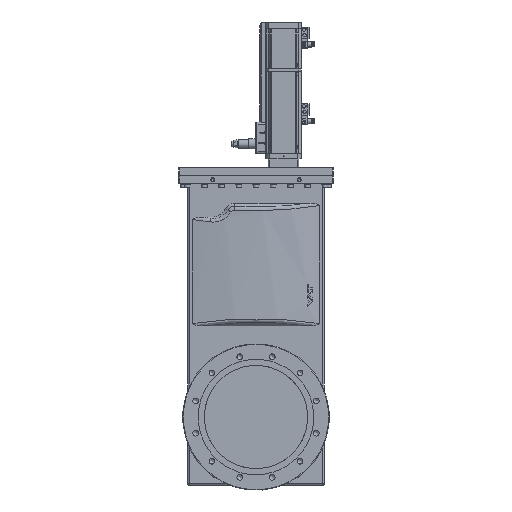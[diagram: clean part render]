
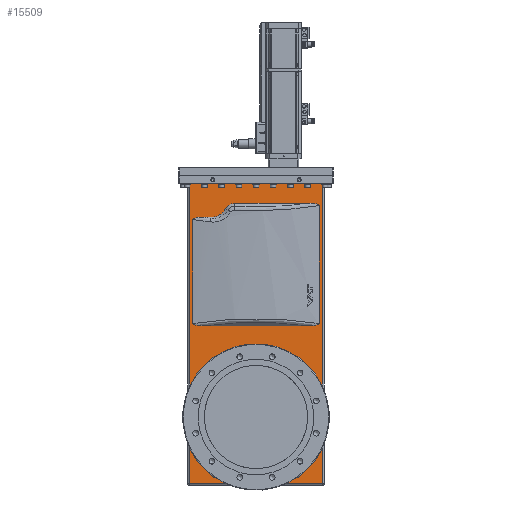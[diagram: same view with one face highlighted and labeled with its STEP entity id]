
A CAD part, front view. The second image highlights one B-rep face of the part: STEP entity #15509.
In plain terms, the highlighted planar face has unit normal (0, -1, 0) as drawn and (0, 0, 1) by its records, which use the part's own axes.
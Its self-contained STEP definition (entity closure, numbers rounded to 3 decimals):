
#15509=ADVANCED_FACE('',(#18729,#18730,#18731),#17597,.F.);
#17597=PLANE('',#48073);
#18729=FACE_BOUND('',#20334,.T.);
#18730=FACE_BOUND('',#20335,.T.);
#18731=FACE_BOUND('',#20336,.T.);
#20334=EDGE_LOOP('',(#29227));
#20335=EDGE_LOOP('',(#29228,#29229,#29230,#29231));
#20336=EDGE_LOOP('',(#29232,#29233,#29234,#29235,#29236,#29237,#29238,#29239,
#29240,#29241,#29242));
#23321=B_SPLINE_CURVE_WITH_KNOTS('',3,(#61765,#61766,#61767,#61768,#61769,
#61770,#61771,#61772,#61773,#61774,#61775,#61776),.UNSPECIFIED.,.F.,.F.,
(4,2,2,2,2,4),(0.,0.5,0.75,0.875,0.938,1.),.UNSPECIFIED.);
#23322=B_SPLINE_CURVE_WITH_KNOTS('',3,(#61777,#61778,#61779,#61780,#61781,
#61782,#61783,#61784,#61785,#61786,#61787,#61788),.UNSPECIFIED.,.F.,.F.,
(4,2,2,2,2,4),(0.,0.063,0.125,0.25,
0.5,1.),.UNSPECIFIED.);
#23323=B_SPLINE_CURVE_WITH_KNOTS('',3,(#61792,#61793,#61794,#61795,#61796,
#61797,#61798,#61799,#61800,#61801,#61802,#61803),.UNSPECIFIED.,.F.,.F.,
(4,2,2,2,2,4),(0.,0.5,0.75,0.875,
0.938,1.),.UNSPECIFIED.);
#23324=B_SPLINE_CURVE_WITH_KNOTS('',3,(#61804,#61805,#61806,#61807,#61808,
#61809,#61810,#61811,#61812,#61813,#61814,#61815),.UNSPECIFIED.,.F.,.F.,
(4,2,2,2,2,4),(0.,0.063,0.125,0.25,0.5,1.),.UNSPECIFIED.);
#24423=LINE('',#61672,#26638);
#24424=LINE('',#61676,#26639);
#24433=LINE('',#61752,#26648);
#24434=LINE('',#61755,#26649);
#24435=LINE('',#61757,#26650);
#24436=LINE('',#61759,#26651);
#24437=LINE('',#61763,#26652);
#24438=LINE('',#61790,#26653);
#24439=LINE('',#61817,#26654);
#26638=VECTOR('',#51739,1.);
#26639=VECTOR('',#51742,1.);
#26648=VECTOR('',#51767,1.);
#26649=VECTOR('',#51768,1.);
#26650=VECTOR('',#51769,1.);
#26651=VECTOR('',#51770,1.);
#26652=VECTOR('',#51773,1.);
#26653=VECTOR('',#51774,1.);
#26654=VECTOR('',#51775,1.);
#29227=ORIENTED_EDGE('',*,*,#41987,.T.);
#29228=ORIENTED_EDGE('',*,*,#41988,.T.);
#29229=ORIENTED_EDGE('',*,*,#41989,.T.);
#29230=ORIENTED_EDGE('',*,*,#41990,.T.);
#29231=ORIENTED_EDGE('',*,*,#41991,.T.);
#29232=ORIENTED_EDGE('',*,*,#41992,.F.);
#29233=ORIENTED_EDGE('',*,*,#41993,.T.);
#29234=ORIENTED_EDGE('',*,*,#41994,.T.);
#29235=ORIENTED_EDGE('',*,*,#41964,.T.);
#29236=ORIENTED_EDGE('',*,*,#41995,.T.);
#29237=ORIENTED_EDGE('',*,*,#41996,.F.);
#29238=ORIENTED_EDGE('',*,*,#41997,.T.);
#29239=ORIENTED_EDGE('',*,*,#41962,.F.);
#29240=ORIENTED_EDGE('',*,*,#41998,.T.);
#29241=ORIENTED_EDGE('',*,*,#41999,.F.);
#29242=ORIENTED_EDGE('',*,*,#42000,.F.);
#38526=VERTEX_POINT('',#61671);
#38527=VERTEX_POINT('',#61673);
#38528=VERTEX_POINT('',#61675);
#38529=VERTEX_POINT('',#61677);
#38551=VERTEX_POINT('',#61751);
#38552=VERTEX_POINT('',#61753);
#38553=VERTEX_POINT('',#61754);
#38554=VERTEX_POINT('',#61756);
#38555=VERTEX_POINT('',#61758);
#38556=VERTEX_POINT('',#61761);
#38557=VERTEX_POINT('',#61762);
#38558=VERTEX_POINT('',#61764);
#38559=VERTEX_POINT('',#61789);
#38560=VERTEX_POINT('',#61791);
#38561=VERTEX_POINT('',#61816);
#38562=VERTEX_POINT('',#61818);
#41962=EDGE_CURVE('',#38526,#38527,#24423,.T.);
#41964=EDGE_CURVE('',#38529,#38528,#24424,.T.);
#41987=EDGE_CURVE('',#38551,#38551,#46608,.T.);
#41988=EDGE_CURVE('',#38552,#38553,#24433,.T.);
#41989=EDGE_CURVE('',#38553,#38554,#24434,.T.);
#41990=EDGE_CURVE('',#38554,#38555,#24435,.T.);
#41991=EDGE_CURVE('',#38555,#38552,#24436,.T.);
#41992=EDGE_CURVE('',#38556,#38557,#46609,.T.);
#41993=EDGE_CURVE('',#38556,#38558,#24437,.T.);
#41994=EDGE_CURVE('',#38558,#38529,#23321,.T.);
#41995=EDGE_CURVE('',#38528,#38559,#23322,.T.);
#41996=EDGE_CURVE('',#38560,#38559,#24438,.T.);
#41997=EDGE_CURVE('',#38560,#38527,#23323,.T.);
#41998=EDGE_CURVE('',#38526,#38561,#23324,.T.);
#41999=EDGE_CURVE('',#38562,#38561,#24439,.T.);
#42000=EDGE_CURVE('',#38557,#38562,#46610,.T.);
#46608=CIRCLE('',#48070,173.075);
#46609=CIRCLE('',#48071,30.);
#46610=CIRCLE('',#48072,48.);
#48070=AXIS2_PLACEMENT_3D('',#61750,#51765,#51766);
#48071=AXIS2_PLACEMENT_3D('',#61760,#51771,#51772);
#48072=AXIS2_PLACEMENT_3D('',#61819,#51776,#51777);
#48073=AXIS2_PLACEMENT_3D('',#61820,#51778,#51779);
#51739=DIRECTION('',(0.,-1.,0.));
#51742=DIRECTION('',(0.,-1.,0.));
#51765=DIRECTION('',(0.,0.,-1.));
#51766=DIRECTION('',(-1.,0.,0.));
#51767=DIRECTION('',(-1.,0.,0.));
#51768=DIRECTION('',(0.,-1.,0.));
#51769=DIRECTION('',(1.,0.,0.));
#51770=DIRECTION('',(0.,1.,0.));
#51771=DIRECTION('',(0.,0.,1.));
#51772=DIRECTION('',(1.,0.,0.));
#51773=DIRECTION('',(1.,0.,0.));
#51774=DIRECTION('',(1.,0.,0.));
#51775=DIRECTION('',(-1.,0.,0.));
#51776=DIRECTION('',(0.,0.,-1.));
#51777=DIRECTION('',(1.,0.,0.));
#51778=DIRECTION('',(0.,0.,-1.));
#51779=DIRECTION('',(1.,0.,0.));
#61671=CARTESIAN_POINT('',(-183.,-126.909,28.25));
#61672=CARTESIAN_POINT('',(-183.,-80.,28.25));
#61673=CARTESIAN_POINT('',(-183.,-428.591,28.25));
#61675=CARTESIAN_POINT('',(183.,-428.591,28.25));
#61676=CARTESIAN_POINT('',(183.,-80.,28.25));
#61677=CARTESIAN_POINT('',(183.,-86.409,28.25));
#61750=CARTESIAN_POINT('',(0.,-700.,28.25));
#61751=CARTESIAN_POINT('',(-173.075,-700.,28.25));
#61752=CARTESIAN_POINT('',(198.2,-11.5,28.25));
#61753=CARTESIAN_POINT('',(191.95,-11.5,28.25));
#61754=CARTESIAN_POINT('',(-191.95,-11.5,28.25));
#61755=CARTESIAN_POINT('',(-191.95,-898.,28.25));
#61756=CARTESIAN_POINT('',(-191.95,-891.75,28.25));
#61757=CARTESIAN_POINT('',(198.2,-891.75,28.25));
#61758=CARTESIAN_POINT('',(191.95,-891.75,28.25));
#61759=CARTESIAN_POINT('',(191.95,-898.,28.25));
#61760=CARTESIAN_POINT('',(-61.806,-110.,28.25));
#61761=CARTESIAN_POINT('',(-61.806,-80.,28.25));
#61762=CARTESIAN_POINT('',(-88.111,-95.577,28.25));
#61763=CARTESIAN_POINT('',(0.,-80.,28.25));
#61764=CARTESIAN_POINT('',(152.687,-80.,28.25));
#61765=CARTESIAN_POINT('',(152.687,-80.,28.25));
#61766=CARTESIAN_POINT('',(158.075,-80.,28.25));
#61767=CARTESIAN_POINT('',(163.454,-80.115,28.25));
#61768=CARTESIAN_POINT('',(171.476,-80.915,28.25));
#61769=CARTESIAN_POINT('',(174.156,-81.273,28.25));
#61770=CARTESIAN_POINT('',(178.096,-82.3,28.25));
#61771=CARTESIAN_POINT('',(179.399,-82.718,28.25));
#61772=CARTESIAN_POINT('',(181.186,-83.685,28.25));
#61773=CARTESIAN_POINT('',(181.764,-84.072,28.25));
#61774=CARTESIAN_POINT('',(182.682,-85.076,28.25));
#61775=CARTESIAN_POINT('',(183.,-85.72,28.25));
#61776=CARTESIAN_POINT('',(183.,-86.409,28.25));
#61777=CARTESIAN_POINT('',(183.,-428.591,28.25));
#61778=CARTESIAN_POINT('',(183.,-429.283,28.25));
#61779=CARTESIAN_POINT('',(182.678,-429.931,28.25));
#61780=CARTESIAN_POINT('',(181.75,-430.94,28.25));
#61781=CARTESIAN_POINT('',(181.173,-431.324,28.25));
#61782=CARTESIAN_POINT('',(179.381,-432.289,28.25));
#61783=CARTESIAN_POINT('',(178.086,-432.703,28.25));
#61784=CARTESIAN_POINT('',(174.149,-433.727,28.25));
#61785=CARTESIAN_POINT('',(171.487,-434.084,28.25));
#61786=CARTESIAN_POINT('',(163.471,-434.885,28.25));
#61787=CARTESIAN_POINT('',(158.075,-435.,28.25));
#61788=CARTESIAN_POINT('',(152.687,-435.,28.25));
#61789=CARTESIAN_POINT('',(152.687,-435.,28.25));
#61790=CARTESIAN_POINT('',(0.,-435.,28.25));
#61791=CARTESIAN_POINT('',(-152.687,-435.,28.25));
#61792=CARTESIAN_POINT('',(-152.687,-435.,28.25));
#61793=CARTESIAN_POINT('',(-158.075,-435.,28.25));
#61794=CARTESIAN_POINT('',(-163.454,-434.885,28.25));
#61795=CARTESIAN_POINT('',(-171.476,-434.085,28.25));
#61796=CARTESIAN_POINT('',(-174.156,-433.727,28.25));
#61797=CARTESIAN_POINT('',(-178.096,-432.7,28.25));
#61798=CARTESIAN_POINT('',(-179.399,-432.282,28.25));
#61799=CARTESIAN_POINT('',(-181.186,-431.315,28.25));
#61800=CARTESIAN_POINT('',(-181.764,-430.928,28.25));
#61801=CARTESIAN_POINT('',(-182.682,-429.924,28.25));
#61802=CARTESIAN_POINT('',(-183.,-429.28,28.25));
#61803=CARTESIAN_POINT('',(-183.,-428.591,28.25));
#61804=CARTESIAN_POINT('',(-183.,-126.909,28.25));
#61805=CARTESIAN_POINT('',(-183.,-126.217,28.25));
#61806=CARTESIAN_POINT('',(-182.678,-125.569,28.25));
#61807=CARTESIAN_POINT('',(-181.75,-124.56,28.25));
#61808=CARTESIAN_POINT('',(-181.173,-124.176,28.25));
#61809=CARTESIAN_POINT('',(-179.381,-123.211,28.25));
#61810=CARTESIAN_POINT('',(-178.086,-122.797,28.25));
#61811=CARTESIAN_POINT('',(-174.149,-121.773,28.25));
#61812=CARTESIAN_POINT('',(-171.487,-121.416,28.25));
#61813=CARTESIAN_POINT('',(-163.471,-120.615,28.25));
#61814=CARTESIAN_POINT('',(-158.075,-120.5,28.25));
#61815=CARTESIAN_POINT('',(-152.687,-120.5,28.25));
#61816=CARTESIAN_POINT('',(-152.687,-120.5,28.25));
#61817=CARTESIAN_POINT('',(198.2,-120.5,28.25));
#61818=CARTESIAN_POINT('',(-130.2,-120.5,28.25));
#61819=CARTESIAN_POINT('',(-130.2,-72.5,28.25));
#61820=CARTESIAN_POINT('',(198.2,-898.,28.25));
